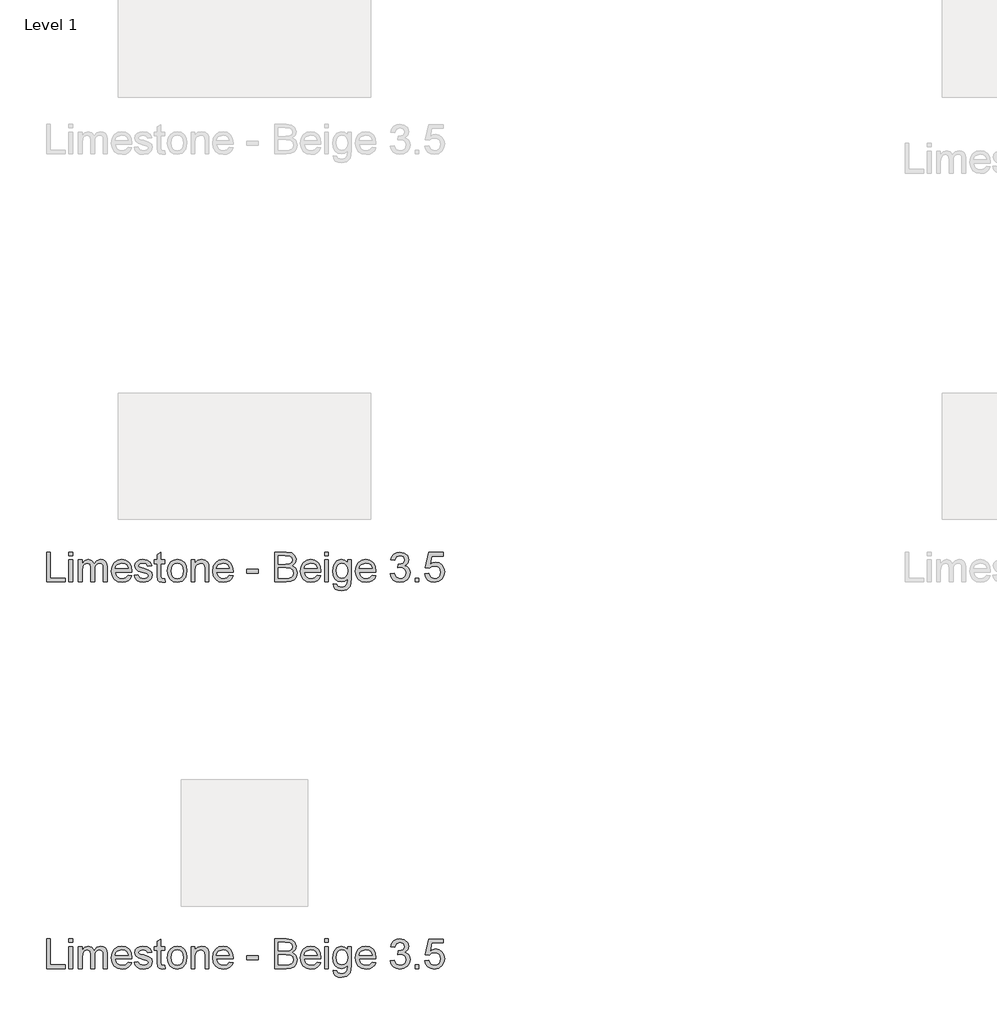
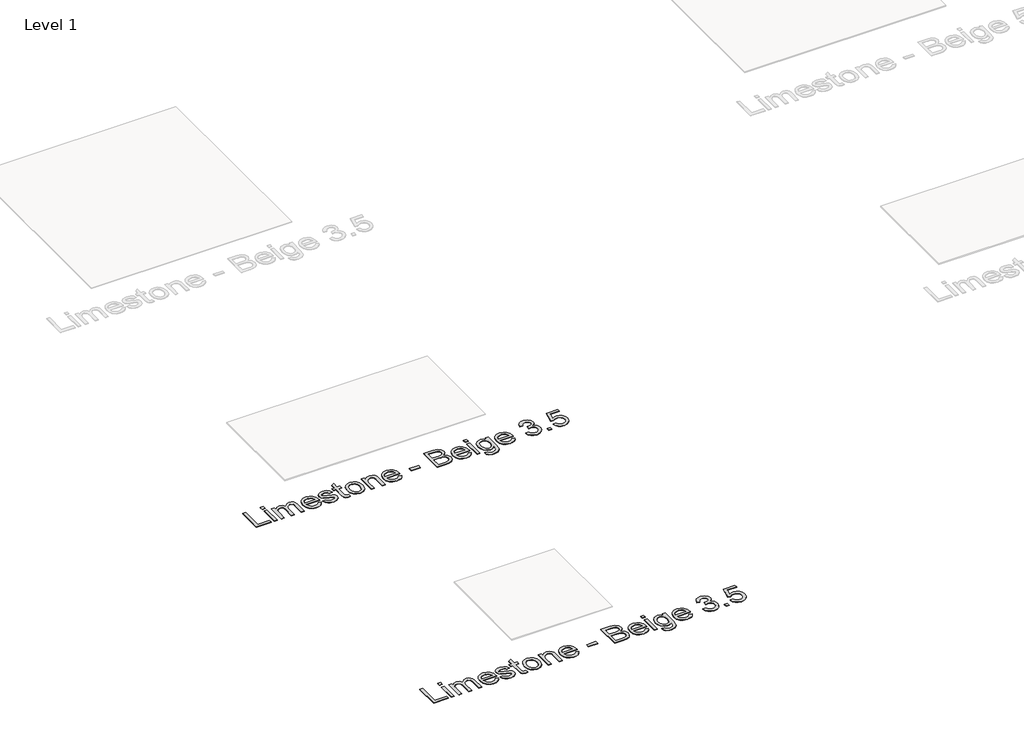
# One storey, part 66 of 80: 2 proxies.
"""IFC4 building model written with IfcOpenShell, lengths in millimetres."""

from ifc_helpers import new_model, si_unit, origin, origin_with_axes, place, context, project, spatial, polyline, outline, extrude, element, save

model = new_model("IFC4")

# Units and contexts
model_context = context("Model", 3, world=origin())
ifc_project = project(units=[si_unit("LENGTHUNIT", "METRE", prefix="MILLI")], contexts=[model_context])

# Site, building, storey
site = spatial("IfcSite", under=ifc_project)
building = spatial("IfcBuilding", under=site)
storey = spatial("IfcBuildingStorey", under=building, Name="Level 1", Elevation=0.0)

# Proxies
placement = place(None, origin())
element("IfcBuildingElementProxy", 1, Name="24\" Arial", ObjectType="24\" Arial", at=placement, inside=storey, context=model_context, shape_type="SweptSolid", body=[
    extrude(outline(polyline([(12550.7700459, 7106.868207), (12550.7700459, 7225.0220532), (12565.5392767, 7225.0220532), (12565.5392767, 7121.6374378), (12624.6161998, 7121.6374378), (12624.6161998, 7106.868207), (12550.7700459, 7106.868207)])), origin_with_axes(), (0.0, 0.0, 1.0), 2.0),
    extrude(outline(polyline([(12639.3854306, 7210.2528224), (12639.3854306, 7225.0220532), (12654.1546613, 7225.0220532), (12654.1546613, 7210.2528224), (12639.3854306, 7210.2528224)])), origin_with_axes(), (0.0, 0.0, 1.0), 2.0),
    extrude(outline(polyline([(12639.3854306, 7106.868207), (12639.3854306, 7193.6374378), (12654.1546613, 7193.6374378), (12654.1546613, 7106.868207), (12639.3854306, 7106.868207)])), origin_with_axes(), (0.0, 0.0, 1.0), 2.0),
    extrude(outline(polyline([(12676.3085075, 7106.868207), (12676.3085075, 7193.6374378), (12691.0777383, 7193.6374378), (12691.0777383, 7179.3585916), (12701.2315844, 7191.055707), (12715.6835075, 7195.4835916), (12730.4815844, 7190.9691686), (12738.6161998, 7178.3201301), (12750.1402383, 7191.1927263), (12764.6931229, 7195.4835916), (12775.7952863, 7193.6987359), (12784.0056229, 7188.3441686), (12789.0789402, 7179.275659), (12790.7700459, 7166.3489763), (12790.7700459, 7106.868207), (12776.0008152, 7106.868207), (12776.0008152, 7160.0028224), (12774.6306229, 7172.3345532), (12769.6690844, 7178.4066686), (12761.2315844, 7180.7143609), (12753.2303825, 7179.2359955), (12746.7075459, 7174.8008993), (12742.3698056, 7167.1061878), (12740.9238921, 7155.8489763), (12740.9238921, 7106.868207), (12726.1546613, 7106.868207), (12726.1546613, 7161.6470532), (12722.7363921, 7175.9547455), (12711.5296613, 7180.7143609), (12700.596969, 7177.541284), (12693.3277383, 7168.2528224), (12691.0777383, 7150.6278224), (12691.0777383, 7106.868207), (12676.3085075, 7106.868207)])), origin_with_axes(), (0.0, 0.0, 1.0), 2.0),
    extrude(outline(polyline([(12873.6738921, 7132.7143609), (12888.1546613, 7130.868207), (12882.9371133, 7119.9571493), (12874.6113921, 7111.8008993), (12863.3649979, 7106.7167647), (12849.3854306, 7105.0220532), (12832.0561036, 7107.946332), (12818.721969, 7116.7191686), (12810.2195652, 7130.7708513), (12807.3854306, 7149.5316686), (12810.2484113, 7168.9234955), (12818.8373536, 7183.4258993), (12831.9911998, 7192.4691686), (12848.5488921, 7195.4835916), (12864.5909594, 7192.4763801), (12877.409469, 7183.4547455), (12885.8145171, 7168.9811878), (12888.6161998, 7149.618207), (12888.5296613, 7145.6374378), (12822.1546613, 7145.6374378), (12824.7111517, 7134.5821493), (12830.6498536, 7126.4547455), (12839.2207671, 7121.4571493), (12849.6738921, 7119.791284), (12864.1546613, 7122.8778224), (12873.6738921, 7132.7143609)]), holes=[polyline([(12822.1546613, 7160.4066686), (12873.846969, 7160.4066686), (12867.9335075, 7173.791284), (12859.3229306, 7178.9835916), (12848.4911998, 7180.7143609), (12830.3036998, 7175.1903224), (12824.581344, 7168.7323897), (12822.1546613, 7160.4066686)])]), origin_with_axes(), (0.0, 0.0, 1.0), 2.0),
    extrude(outline(polyline([(12897.846969, 7132.7143609), (12912.6161998, 7134.5605147), (12919.4527383, 7123.5989763), (12935.1161998, 7119.791284), (12950.1738921, 7123.2816686), (12955.0777383, 7131.4739763), (12950.1450459, 7138.1085916), (12934.9431229, 7142.3201301), (12912.7027383, 7149.5460916), (12902.9960075, 7157.9835916), (12899.6931229, 7169.8970532), (12902.346969, 7180.9018609), (12909.5873536, 7189.3105147), (12918.9767767, 7193.680707), (12931.6835075, 7195.4835916), (12949.6546613, 7192.5845532), (12961.0777383, 7184.7383993), (12966.1546613, 7171.4835916), (12951.3854306, 7169.6374378), (12945.8325459, 7177.7864763), (12932.8373536, 7180.7143609), (12918.7027383, 7177.916284), (12914.4623536, 7171.3970532), (12916.221969, 7167.0989763), (12921.7315844, 7163.8393609), (12934.4527383, 7160.6951301), (12956.1306229, 7153.743207), (12966.1979306, 7145.868207), (12969.846969, 7133.0316686), (12965.5633152, 7118.8970532), (12953.2027383, 7108.6422455), (12934.9142767, 7105.0220532), (12920.0224498, 7106.7672455), (12909.1546613, 7112.0028224), (12901.8998536, 7120.6710916), (12897.846969, 7132.7143609)])), origin_with_axes(), (0.0, 0.0, 1.0), 2.0),
    extrude(outline(polyline([(13017.846969, 7119.1855147), (13019.6931229, 7106.4355147), (13008.6450459, 7105.0220532), (12996.2700459, 7107.4739763), (12990.096969, 7113.9066686), (12988.3085075, 7130.666284), (12988.3085075, 7178.868207), (12977.2315844, 7178.868207), (12977.2315844, 7193.6374378), (12988.3085075, 7193.6374378), (12988.3085075, 7214.7239763), (13003.0777383, 7223.4066686), (13003.0777383, 7193.6374378), (13017.846969, 7193.6374378), (13017.846969, 7178.868207), (13003.0777383, 7178.868207), (13003.0777383, 7131.0989763), (13003.8565844, 7123.4835916), (13006.3806229, 7120.7864763), (13011.4142767, 7119.791284), (13017.846969, 7119.1855147)])), origin_with_axes(), (0.0, 0.0, 1.0), 2.0),
    extrude(outline(polyline([(13028.9238921, 7150.2528224), (13032.1186036, 7171.1734955), (13041.7027383, 7185.8778224), (13053.5440844, 7193.0821493), (13067.721969, 7195.4835916), (13083.237594, 7192.5593128), (13095.6306229, 7183.7864763), (13103.7544209, 7169.8573897), (13106.4623536, 7151.4643609), (13101.6738921, 7125.1855147), (13087.7267767, 7110.3153224), (13067.721969, 7105.0220532), (13052.018844, 7107.9355147), (13039.6402383, 7116.6758993), (13031.6029786, 7130.8970532), (13028.9238921, 7150.2528224)]), holes=[polyline([(13043.6931229, 7150.2816686), (13045.4022575, 7136.915082), (13050.5296613, 7127.3922455), (13058.2460075, 7121.6915243), (13067.721969, 7119.791284), (13077.1546613, 7121.7023416), (13084.8565844, 7127.4355147), (13089.9839883, 7137.0845532), (13091.6931229, 7150.743207), (13089.9731709, 7163.7203705), (13084.8133152, 7173.1133993), (13077.1005748, 7178.8141205), (13067.721969, 7180.7143609), (13058.2460075, 7178.821332), (13050.5296613, 7173.1422455), (13045.4022575, 7163.6410436), (13043.6931229, 7150.2816686)])]), origin_with_axes(), (0.0, 0.0, 1.0), 2.0),
    extrude(outline(polyline([(13123.0777383, 7106.868207), (13123.0777383, 7193.6374378), (13137.846969, 7193.6374378), (13137.846969, 7181.5220532), (13149.1402383, 7191.993207), (13164.5585075, 7195.4835916), (13178.5056229, 7192.6710916), (13188.0248536, 7185.2864763), (13192.4527383, 7174.4258993), (13193.2315844, 7160.1470532), (13193.2315844, 7106.868207), (13178.4623536, 7106.868207), (13178.4623536, 7158.1566686), (13176.7604306, 7171.2239763), (13170.7460075, 7178.1326301), (13160.6065844, 7180.7143609), (13144.5825459, 7174.916284), (13139.5308633, 7166.5148416), (13137.846969, 7152.9066686), (13137.846969, 7106.868207), (13123.0777383, 7106.868207)])), origin_with_axes(), (0.0, 0.0, 1.0), 2.0),
    extrude(outline(polyline([(13274.2892767, 7132.7143609), (13288.7700459, 7130.868207), (13283.5524979, 7119.9571493), (13275.2267767, 7111.8008993), (13263.9803825, 7106.7167647), (13250.0008152, 7105.0220532), (13232.6714883, 7107.946332), (13219.3373536, 7116.7191686), (13210.8349498, 7130.7708513), (13208.0008152, 7149.5316686), (13210.8637959, 7168.9234955), (13219.4527383, 7183.4258993), (13232.6065844, 7192.4691686), (13249.1642767, 7195.4835916), (13265.206344, 7192.4763801), (13278.0248536, 7183.4547455), (13286.4299017, 7168.9811878), (13289.2315844, 7149.618207), (13289.1450459, 7145.6374378), (13222.7700459, 7145.6374378), (13225.3265363, 7134.5821493), (13231.2652383, 7126.4547455), (13239.8361517, 7121.4571493), (13250.2892767, 7119.791284), (13264.7700459, 7122.8778224), (13274.2892767, 7132.7143609)]), holes=[polyline([(13222.7700459, 7160.4066686), (13274.4623536, 7160.4066686), (13268.5488921, 7173.791284), (13259.9383152, 7178.9835916), (13249.1065844, 7180.7143609), (13230.9190844, 7175.1903224), (13225.1967286, 7168.7323897), (13222.7700459, 7160.4066686)])]), origin_with_axes(), (0.0, 0.0, 1.0), 2.0),
    extrude(outline(polyline([(13342.7700459, 7141.9451301), (13342.7700459, 7156.7143609), (13388.9238921, 7156.7143609), (13388.9238921, 7141.9451301), (13342.7700459, 7141.9451301)])), origin_with_axes(), (0.0, 0.0, 1.0), 2.0),
    extrude(outline(polyline([(13453.5392767, 7106.868207), (13453.5392767, 7225.0220532), (13498.6258152, 7225.0220532), (13520.7075459, 7221.5460916), (13533.7460075, 7210.8585916), (13538.4623536, 7195.743207), (13534.4960075, 7181.9403224), (13522.5104306, 7171.4835916), (13537.0633152, 7160.4643609), (13542.1546613, 7142.0893609), (13538.6786998, 7126.2095532), (13530.0681229, 7114.9018609), (13517.2171613, 7108.9018609), (13498.2796613, 7106.868207), (13453.5392767, 7106.868207)]), holes=[polyline([(13468.3085075, 7121.6374378), (13498.596969, 7121.6374378), (13509.5585075, 7122.2143609), (13518.8325459, 7125.430707), (13524.9767767, 7131.993207), (13527.3854306, 7141.9451301), (13524.5585075, 7153.4258993), (13515.3998536, 7160.2768609), (13497.1546613, 7162.2528224), (13468.3085075, 7162.2528224), (13468.3085075, 7121.6374378)]), polyline([(13468.3085075, 7177.0220532), (13495.2796613, 7177.0220532), (13511.0296613, 7178.291284), (13520.5056229, 7183.7576301), (13523.6931229, 7193.3778224), (13520.721969, 7203.0124378), (13512.2123536, 7208.7095532), (13493.2315844, 7210.2528224), (13468.3085075, 7210.2528224), (13468.3085075, 7177.0220532)])]), origin_with_axes(), (0.0, 0.0, 1.0), 2.0),
    extrude(outline(polyline([(13621.3661998, 7132.7143609), (13635.846969, 7130.868207), (13630.6294209, 7119.9571493), (13622.3036998, 7111.8008993), (13611.0573056, 7106.7167647), (13597.0777383, 7105.0220532), (13579.7484113, 7107.946332), (13566.4142767, 7116.7191686), (13557.9118729, 7130.7708513), (13555.0777383, 7149.5316686), (13557.940719, 7168.9234955), (13566.5296613, 7183.4258993), (13579.6835075, 7192.4691686), (13596.2411998, 7195.4835916), (13612.2832671, 7192.4763801), (13625.1017767, 7183.4547455), (13633.5068248, 7168.9811878), (13636.3085075, 7149.618207), (13636.221969, 7145.6374378), (13569.846969, 7145.6374378), (13572.4034594, 7134.5821493), (13578.3421613, 7126.4547455), (13586.9130748, 7121.4571493), (13597.3661998, 7119.791284), (13611.846969, 7122.8778224), (13621.3661998, 7132.7143609)]), holes=[polyline([(13569.846969, 7160.4066686), (13621.5392767, 7160.4066686), (13615.6258152, 7173.791284), (13607.0152383, 7178.9835916), (13596.1835075, 7180.7143609), (13577.9960075, 7175.1903224), (13572.2736517, 7168.7323897), (13569.846969, 7160.4066686)])]), origin_with_axes(), (0.0, 0.0, 1.0), 2.0),
    extrude(outline(polyline([(13651.0777383, 7106.868207), (13651.0777383, 7193.6374378), (13665.846969, 7193.6374378), (13665.846969, 7106.868207), (13651.0777383, 7106.868207)])), origin_with_axes(), (0.0, 0.0, 1.0), 2.0),
    extrude(outline(polyline([(13651.0777383, 7210.2528224), (13651.0777383, 7225.0220532), (13665.846969, 7225.0220532), (13665.846969, 7210.2528224), (13651.0777383, 7210.2528224)])), origin_with_axes(), (0.0, 0.0, 1.0), 2.0),
    extrude(outline(polyline([(13684.3085075, 7099.4835916), (13699.0777383, 7097.6374378), (13703.8661998, 7089.8489763), (13718.2027383, 7086.5605147), (13733.3181229, 7090.2816686), (13740.5296613, 7100.7239763), (13741.5392767, 7117.9451301), (13731.1402383, 7109.6374378), (13718.4623536, 7106.868207), (13703.2351902, 7110.0917647), (13691.8806229, 7119.7624378), (13684.8169209, 7133.9403224), (13682.4623536, 7150.6855147), (13686.6883152, 7173.5749378), (13698.9190844, 7189.7720532), (13717.7411998, 7195.4835916), (13730.9166806, 7192.2528224), (13741.5392767, 7182.5605147), (13741.5392767, 7193.6374378), (13756.3085075, 7193.6374378), (13756.3085075, 7118.7239763), (13752.2700459, 7090.0364763), (13739.4767767, 7076.6951301), (13717.9142767, 7071.791284), (13704.1726902, 7073.5184474), (13693.3517767, 7078.6999378), (13686.4106709, 7087.3501782), (13684.3085075, 7099.4835916)]), holes=[polyline([(13697.2315844, 7151.6951301), (13698.8073056, 7138.1482551), (13703.534469, 7128.8345532), (13710.6414402, 7123.4367166), (13719.3565844, 7121.6374378), (13728.0068248, 7123.4258993), (13735.1498536, 7128.791284), (13739.9419209, 7137.9859955), (13741.5392767, 7151.2624378), (13739.8950459, 7164.0665243), (13734.9623536, 7173.2864763), (13727.7147575, 7178.8573897), (13719.1258152, 7180.7143609), (13710.6919209, 7178.8862359), (13703.6210075, 7173.4018609), (13698.8289402, 7164.3189282), (13697.2315844, 7151.6951301)])]), origin_with_axes(), (0.0, 0.0, 1.0), 2.0),
    extrude(outline(polyline([(13839.2123536, 7132.7143609), (13853.6931229, 7130.868207), (13848.4755748, 7119.9571493), (13840.1498536, 7111.8008993), (13828.9034594, 7106.7167647), (13814.9238921, 7105.0220532), (13797.5945652, 7107.946332), (13784.2604306, 7116.7191686), (13775.7580267, 7130.7708513), (13772.9238921, 7149.5316686), (13775.7868729, 7168.9234955), (13784.3758152, 7183.4258993), (13797.5296613, 7192.4691686), (13814.0873536, 7195.4835916), (13830.1294209, 7192.4763801), (13842.9479306, 7183.4547455), (13851.3529786, 7168.9811878), (13854.1546613, 7149.618207), (13854.0681229, 7145.6374378), (13787.6931229, 7145.6374378), (13790.2496133, 7134.5821493), (13796.1883152, 7126.4547455), (13804.7592286, 7121.4571493), (13815.2123536, 7119.791284), (13829.6931229, 7122.8778224), (13839.2123536, 7132.7143609)]), holes=[polyline([(13787.6931229, 7160.4066686), (13839.3854306, 7160.4066686), (13833.471969, 7173.791284), (13824.8613921, 7178.9835916), (13814.0296613, 7180.7143609), (13795.8421613, 7175.1903224), (13790.1198056, 7168.7323897), (13787.6931229, 7160.4066686)])]), origin_with_axes(), (0.0, 0.0, 1.0), 2.0),
    extrude(outline(polyline([(13911.3854306, 7138.2528224), (13926.1546613, 7140.0989763), (13934.3036998, 7124.5508993), (13949.5488921, 7119.791284), (13959.6738921, 7121.4283032), (13967.4911998, 7126.3393609), (13972.4887959, 7133.666284), (13974.1546613, 7142.5508993), (13972.503219, 7150.9847936), (13967.5488921, 7157.8249378), (13960.0488921, 7162.3573897), (13950.7604306, 7163.868207), (13940.4046613, 7162.2528224), (13942.0488921, 7177.0220532), (13944.4142767, 7176.8489763), (13961.1738921, 7181.0893609), (13966.7556229, 7186.4691686), (13968.6161998, 7194.1278224), (13963.221969, 7205.680707), (13949.3181229, 7210.2528224), (13935.2411998, 7205.6374378), (13928.0008152, 7191.791284), (13913.2315844, 7193.6374378), (13917.5801421, 7206.899457), (13925.3181229, 7216.8008993), (13935.9046613, 7222.9667647), (13948.7988921, 7225.0220532), (13966.6113921, 7220.9691686), (13979.0729306, 7209.8922455), (13983.3854306, 7194.993207), (13979.2892767, 7181.3778224), (13967.1738921, 7171.5989763), (13976.4190844, 7167.8633993), (13983.2700459, 7161.5028224), (13987.5104306, 7152.8633993), (13988.9238921, 7142.291284), (13986.096969, 7127.8970532), (13977.6161998, 7115.868207), (13964.815719, 7107.7335916), (13949.0296613, 7105.0220532), (13934.7508152, 7107.336957), (13923.1258152, 7114.2816686), (13915.0416806, 7124.9042647), (13911.3854306, 7138.2528224)])), origin_with_axes(), (0.0, 0.0, 1.0), 2.0),
    extrude(outline(polyline([(14009.2315844, 7106.868207), (14009.2315844, 7121.6374378), (14024.0008152, 7121.6374378), (14024.0008152, 7106.868207), (14009.2315844, 7106.868207)])), origin_with_axes(), (0.0, 0.0, 1.0), 2.0),
    extrude(outline(polyline([(14048.0008152, 7138.2528224), (14062.7700459, 7140.0989763), (14070.2123536, 7124.8826301), (14085.6450459, 7119.791284), (14096.2315844, 7121.5617166), (14104.1642767, 7126.8730147), (14109.1186036, 7135.1121974), (14110.7700459, 7145.666284), (14109.2231709, 7155.603784), (14104.5825459, 7163.2047455), (14096.8121133, 7168.0292647), (14085.8758152, 7169.6374378), (14072.909469, 7167.0701301), (14064.6161998, 7160.4066686), (14049.846969, 7162.2528224), (14062.7700459, 7223.1758993), (14120.0008152, 7223.1758993), (14120.0008152, 7208.4066686), (14074.7123536, 7208.4066686), (14068.3950459, 7175.868207), (14078.9455267, 7182.2720532), (14090.0008152, 7184.4066686), (14103.800094, 7181.760034), (14115.2556229, 7173.8201301), (14122.9683633, 7161.7191686), (14125.5392767, 7146.5893609), (14123.2243729, 7131.8201301), (14116.2796613, 7119.1855147), (14102.9815844, 7108.5629186), (14085.5873536, 7105.0220532), (14071.081344, 7107.2972936), (14059.5248536, 7114.1230147), (14051.6029786, 7124.7059474), (14048.0008152, 7138.2528224)])), origin_with_axes(), (0.0, 0.0, 1.0), 2.0),
])
element("IfcBuildingElementProxy", 2, Name="24\" Arial", ObjectType="24\" Arial", at=placement, inside=storey, context=model_context, shape_type="SweptSolid", body=[
    extrude(outline(polyline([(12550.7700459, 5576.868207), (12550.7700459, 5695.0220532), (12565.5392767, 5695.0220532), (12565.5392767, 5591.6374378), (12624.6161998, 5591.6374378), (12624.6161998, 5576.868207), (12550.7700459, 5576.868207)])), origin_with_axes(), (0.0, 0.0, 1.0), 2.0),
    extrude(outline(polyline([(12639.3854306, 5680.2528224), (12639.3854306, 5695.0220532), (12654.1546613, 5695.0220532), (12654.1546613, 5680.2528224), (12639.3854306, 5680.2528224)])), origin_with_axes(), (0.0, 0.0, 1.0), 2.0),
    extrude(outline(polyline([(12639.3854306, 5576.868207), (12639.3854306, 5663.6374378), (12654.1546613, 5663.6374378), (12654.1546613, 5576.868207), (12639.3854306, 5576.868207)])), origin_with_axes(), (0.0, 0.0, 1.0), 2.0),
    extrude(outline(polyline([(12676.3085075, 5576.868207), (12676.3085075, 5663.6374378), (12691.0777383, 5663.6374378), (12691.0777383, 5649.3585916), (12701.2315844, 5661.055707), (12715.6835075, 5665.4835916), (12730.4815844, 5660.9691686), (12738.6161998, 5648.3201301), (12750.1402383, 5661.1927263), (12764.6931229, 5665.4835916), (12775.7952863, 5663.6987359), (12784.0056229, 5658.3441686), (12789.0789402, 5649.275659), (12790.7700459, 5636.3489763), (12790.7700459, 5576.868207), (12776.0008152, 5576.868207), (12776.0008152, 5630.0028224), (12774.6306229, 5642.3345532), (12769.6690844, 5648.4066686), (12761.2315844, 5650.7143609), (12753.2303825, 5649.2359955), (12746.7075459, 5644.8008993), (12742.3698056, 5637.1061878), (12740.9238921, 5625.8489763), (12740.9238921, 5576.868207), (12726.1546613, 5576.868207), (12726.1546613, 5631.6470532), (12722.7363921, 5645.9547455), (12711.5296613, 5650.7143609), (12700.596969, 5647.541284), (12693.3277383, 5638.2528224), (12691.0777383, 5620.6278224), (12691.0777383, 5576.868207), (12676.3085075, 5576.868207)])), origin_with_axes(), (0.0, 0.0, 1.0), 2.0),
    extrude(outline(polyline([(12873.6738921, 5602.7143609), (12888.1546613, 5600.868207), (12882.9371133, 5589.9571493), (12874.6113921, 5581.8008993), (12863.3649979, 5576.7167647), (12849.3854306, 5575.0220532), (12832.0561036, 5577.946332), (12818.721969, 5586.7191686), (12810.2195652, 5600.7708513), (12807.3854306, 5619.5316686), (12810.2484113, 5638.9234955), (12818.8373536, 5653.4258993), (12831.9911998, 5662.4691686), (12848.5488921, 5665.4835916), (12864.5909594, 5662.4763801), (12877.409469, 5653.4547455), (12885.8145171, 5638.9811878), (12888.6161998, 5619.618207), (12888.5296613, 5615.6374378), (12822.1546613, 5615.6374378), (12824.7111517, 5604.5821493), (12830.6498536, 5596.4547455), (12839.2207671, 5591.4571493), (12849.6738921, 5589.791284), (12864.1546613, 5592.8778224), (12873.6738921, 5602.7143609)]), holes=[polyline([(12822.1546613, 5630.4066686), (12873.846969, 5630.4066686), (12867.9335075, 5643.791284), (12859.3229306, 5648.9835916), (12848.4911998, 5650.7143609), (12830.3036998, 5645.1903224), (12824.581344, 5638.7323897), (12822.1546613, 5630.4066686)])]), origin_with_axes(), (0.0, 0.0, 1.0), 2.0),
    extrude(outline(polyline([(12897.846969, 5602.7143609), (12912.6161998, 5604.5605147), (12919.4527383, 5593.5989763), (12935.1161998, 5589.791284), (12950.1738921, 5593.2816686), (12955.0777383, 5601.4739763), (12950.1450459, 5608.1085916), (12934.9431229, 5612.3201301), (12912.7027383, 5619.5460916), (12902.9960075, 5627.9835916), (12899.6931229, 5639.8970532), (12902.346969, 5650.9018609), (12909.5873536, 5659.3105147), (12918.9767767, 5663.680707), (12931.6835075, 5665.4835916), (12949.6546613, 5662.5845532), (12961.0777383, 5654.7383993), (12966.1546613, 5641.4835916), (12951.3854306, 5639.6374378), (12945.8325459, 5647.7864763), (12932.8373536, 5650.7143609), (12918.7027383, 5647.916284), (12914.4623536, 5641.3970532), (12916.221969, 5637.0989763), (12921.7315844, 5633.8393609), (12934.4527383, 5630.6951301), (12956.1306229, 5623.743207), (12966.1979306, 5615.868207), (12969.846969, 5603.0316686), (12965.5633152, 5588.8970532), (12953.2027383, 5578.6422455), (12934.9142767, 5575.0220532), (12920.0224498, 5576.7672455), (12909.1546613, 5582.0028224), (12901.8998536, 5590.6710916), (12897.846969, 5602.7143609)])), origin_with_axes(), (0.0, 0.0, 1.0), 2.0),
    extrude(outline(polyline([(13017.846969, 5589.1855147), (13019.6931229, 5576.4355147), (13008.6450459, 5575.0220532), (12996.2700459, 5577.4739763), (12990.096969, 5583.9066686), (12988.3085075, 5600.666284), (12988.3085075, 5648.868207), (12977.2315844, 5648.868207), (12977.2315844, 5663.6374378), (12988.3085075, 5663.6374378), (12988.3085075, 5684.7239763), (13003.0777383, 5693.4066686), (13003.0777383, 5663.6374378), (13017.846969, 5663.6374378), (13017.846969, 5648.868207), (13003.0777383, 5648.868207), (13003.0777383, 5601.0989763), (13003.8565844, 5593.4835916), (13006.3806229, 5590.7864763), (13011.4142767, 5589.791284), (13017.846969, 5589.1855147)])), origin_with_axes(), (0.0, 0.0, 1.0), 2.0),
    extrude(outline(polyline([(13028.9238921, 5620.2528224), (13032.1186036, 5641.1734955), (13041.7027383, 5655.8778224), (13053.5440844, 5663.0821493), (13067.721969, 5665.4835916), (13083.237594, 5662.5593128), (13095.6306229, 5653.7864763), (13103.7544209, 5639.8573897), (13106.4623536, 5621.4643609), (13101.6738921, 5595.1855147), (13087.7267767, 5580.3153224), (13067.721969, 5575.0220532), (13052.018844, 5577.9355147), (13039.6402383, 5586.6758993), (13031.6029786, 5600.8970532), (13028.9238921, 5620.2528224)]), holes=[polyline([(13043.6931229, 5620.2816686), (13045.4022575, 5606.915082), (13050.5296613, 5597.3922455), (13058.2460075, 5591.6915243), (13067.721969, 5589.791284), (13077.1546613, 5591.7023416), (13084.8565844, 5597.4355147), (13089.9839883, 5607.0845532), (13091.6931229, 5620.743207), (13089.9731709, 5633.7203705), (13084.8133152, 5643.1133993), (13077.1005748, 5648.8141205), (13067.721969, 5650.7143609), (13058.2460075, 5648.821332), (13050.5296613, 5643.1422455), (13045.4022575, 5633.6410436), (13043.6931229, 5620.2816686)])]), origin_with_axes(), (0.0, 0.0, 1.0), 2.0),
    extrude(outline(polyline([(13123.0777383, 5576.868207), (13123.0777383, 5663.6374378), (13137.846969, 5663.6374378), (13137.846969, 5651.5220532), (13149.1402383, 5661.993207), (13164.5585075, 5665.4835916), (13178.5056229, 5662.6710916), (13188.0248536, 5655.2864763), (13192.4527383, 5644.4258993), (13193.2315844, 5630.1470532), (13193.2315844, 5576.868207), (13178.4623536, 5576.868207), (13178.4623536, 5628.1566686), (13176.7604306, 5641.2239763), (13170.7460075, 5648.1326301), (13160.6065844, 5650.7143609), (13144.5825459, 5644.916284), (13139.5308633, 5636.5148416), (13137.846969, 5622.9066686), (13137.846969, 5576.868207), (13123.0777383, 5576.868207)])), origin_with_axes(), (0.0, 0.0, 1.0), 2.0),
    extrude(outline(polyline([(13274.2892767, 5602.7143609), (13288.7700459, 5600.868207), (13283.5524979, 5589.9571493), (13275.2267767, 5581.8008993), (13263.9803825, 5576.7167647), (13250.0008152, 5575.0220532), (13232.6714883, 5577.946332), (13219.3373536, 5586.7191686), (13210.8349498, 5600.7708513), (13208.0008152, 5619.5316686), (13210.8637959, 5638.9234955), (13219.4527383, 5653.4258993), (13232.6065844, 5662.4691686), (13249.1642767, 5665.4835916), (13265.206344, 5662.4763801), (13278.0248536, 5653.4547455), (13286.4299017, 5638.9811878), (13289.2315844, 5619.618207), (13289.1450459, 5615.6374378), (13222.7700459, 5615.6374378), (13225.3265363, 5604.5821493), (13231.2652383, 5596.4547455), (13239.8361517, 5591.4571493), (13250.2892767, 5589.791284), (13264.7700459, 5592.8778224), (13274.2892767, 5602.7143609)]), holes=[polyline([(13222.7700459, 5630.4066686), (13274.4623536, 5630.4066686), (13268.5488921, 5643.791284), (13259.9383152, 5648.9835916), (13249.1065844, 5650.7143609), (13230.9190844, 5645.1903224), (13225.1967286, 5638.7323897), (13222.7700459, 5630.4066686)])]), origin_with_axes(), (0.0, 0.0, 1.0), 2.0),
    extrude(outline(polyline([(13342.7700459, 5611.9451301), (13342.7700459, 5626.7143609), (13388.9238921, 5626.7143609), (13388.9238921, 5611.9451301), (13342.7700459, 5611.9451301)])), origin_with_axes(), (0.0, 0.0, 1.0), 2.0),
    extrude(outline(polyline([(13453.5392767, 5576.868207), (13453.5392767, 5695.0220532), (13498.6258152, 5695.0220532), (13520.7075459, 5691.5460916), (13533.7460075, 5680.8585916), (13538.4623536, 5665.743207), (13534.4960075, 5651.9403224), (13522.5104306, 5641.4835916), (13537.0633152, 5630.4643609), (13542.1546613, 5612.0893609), (13538.6786998, 5596.2095532), (13530.0681229, 5584.9018609), (13517.2171613, 5578.9018609), (13498.2796613, 5576.868207), (13453.5392767, 5576.868207)]), holes=[polyline([(13468.3085075, 5591.6374378), (13498.596969, 5591.6374378), (13509.5585075, 5592.2143609), (13518.8325459, 5595.430707), (13524.9767767, 5601.993207), (13527.3854306, 5611.9451301), (13524.5585075, 5623.4258993), (13515.3998536, 5630.2768609), (13497.1546613, 5632.2528224), (13468.3085075, 5632.2528224), (13468.3085075, 5591.6374378)]), polyline([(13468.3085075, 5647.0220532), (13495.2796613, 5647.0220532), (13511.0296613, 5648.291284), (13520.5056229, 5653.7576301), (13523.6931229, 5663.3778224), (13520.721969, 5673.0124378), (13512.2123536, 5678.7095532), (13493.2315844, 5680.2528224), (13468.3085075, 5680.2528224), (13468.3085075, 5647.0220532)])]), origin_with_axes(), (0.0, 0.0, 1.0), 2.0),
    extrude(outline(polyline([(13621.3661998, 5602.7143609), (13635.846969, 5600.868207), (13630.6294209, 5589.9571493), (13622.3036998, 5581.8008993), (13611.0573056, 5576.7167647), (13597.0777383, 5575.0220532), (13579.7484113, 5577.946332), (13566.4142767, 5586.7191686), (13557.9118729, 5600.7708513), (13555.0777383, 5619.5316686), (13557.940719, 5638.9234955), (13566.5296613, 5653.4258993), (13579.6835075, 5662.4691686), (13596.2411998, 5665.4835916), (13612.2832671, 5662.4763801), (13625.1017767, 5653.4547455), (13633.5068248, 5638.9811878), (13636.3085075, 5619.618207), (13636.221969, 5615.6374378), (13569.846969, 5615.6374378), (13572.4034594, 5604.5821493), (13578.3421613, 5596.4547455), (13586.9130748, 5591.4571493), (13597.3661998, 5589.791284), (13611.846969, 5592.8778224), (13621.3661998, 5602.7143609)]), holes=[polyline([(13569.846969, 5630.4066686), (13621.5392767, 5630.4066686), (13615.6258152, 5643.791284), (13607.0152383, 5648.9835916), (13596.1835075, 5650.7143609), (13577.9960075, 5645.1903224), (13572.2736517, 5638.7323897), (13569.846969, 5630.4066686)])]), origin_with_axes(), (0.0, 0.0, 1.0), 2.0),
    extrude(outline(polyline([(13651.0777383, 5576.868207), (13651.0777383, 5663.6374378), (13665.846969, 5663.6374378), (13665.846969, 5576.868207), (13651.0777383, 5576.868207)])), origin_with_axes(), (0.0, 0.0, 1.0), 2.0),
    extrude(outline(polyline([(13651.0777383, 5680.2528224), (13651.0777383, 5695.0220532), (13665.846969, 5695.0220532), (13665.846969, 5680.2528224), (13651.0777383, 5680.2528224)])), origin_with_axes(), (0.0, 0.0, 1.0), 2.0),
    extrude(outline(polyline([(13684.3085075, 5569.4835916), (13699.0777383, 5567.6374378), (13703.8661998, 5559.8489763), (13718.2027383, 5556.5605147), (13733.3181229, 5560.2816686), (13740.5296613, 5570.7239763), (13741.5392767, 5587.9451301), (13731.1402383, 5579.6374378), (13718.4623536, 5576.868207), (13703.2351902, 5580.0917647), (13691.8806229, 5589.7624378), (13684.8169209, 5603.9403224), (13682.4623536, 5620.6855147), (13686.6883152, 5643.5749378), (13698.9190844, 5659.7720532), (13717.7411998, 5665.4835916), (13730.9166806, 5662.2528224), (13741.5392767, 5652.5605147), (13741.5392767, 5663.6374378), (13756.3085075, 5663.6374378), (13756.3085075, 5588.7239763), (13752.2700459, 5560.0364763), (13739.4767767, 5546.6951301), (13717.9142767, 5541.791284), (13704.1726902, 5543.5184474), (13693.3517767, 5548.6999378), (13686.4106709, 5557.3501782), (13684.3085075, 5569.4835916)]), holes=[polyline([(13697.2315844, 5621.6951301), (13698.8073056, 5608.1482551), (13703.534469, 5598.8345532), (13710.6414402, 5593.4367166), (13719.3565844, 5591.6374378), (13728.0068248, 5593.4258993), (13735.1498536, 5598.791284), (13739.9419209, 5607.9859955), (13741.5392767, 5621.2624378), (13739.8950459, 5634.0665243), (13734.9623536, 5643.2864763), (13727.7147575, 5648.8573897), (13719.1258152, 5650.7143609), (13710.6919209, 5648.8862359), (13703.6210075, 5643.4018609), (13698.8289402, 5634.3189282), (13697.2315844, 5621.6951301)])]), origin_with_axes(), (0.0, 0.0, 1.0), 2.0),
    extrude(outline(polyline([(13839.2123536, 5602.7143609), (13853.6931229, 5600.868207), (13848.4755748, 5589.9571493), (13840.1498536, 5581.8008993), (13828.9034594, 5576.7167647), (13814.9238921, 5575.0220532), (13797.5945652, 5577.946332), (13784.2604306, 5586.7191686), (13775.7580267, 5600.7708513), (13772.9238921, 5619.5316686), (13775.7868729, 5638.9234955), (13784.3758152, 5653.4258993), (13797.5296613, 5662.4691686), (13814.0873536, 5665.4835916), (13830.1294209, 5662.4763801), (13842.9479306, 5653.4547455), (13851.3529786, 5638.9811878), (13854.1546613, 5619.618207), (13854.0681229, 5615.6374378), (13787.6931229, 5615.6374378), (13790.2496133, 5604.5821493), (13796.1883152, 5596.4547455), (13804.7592286, 5591.4571493), (13815.2123536, 5589.791284), (13829.6931229, 5592.8778224), (13839.2123536, 5602.7143609)]), holes=[polyline([(13787.6931229, 5630.4066686), (13839.3854306, 5630.4066686), (13833.471969, 5643.791284), (13824.8613921, 5648.9835916), (13814.0296613, 5650.7143609), (13795.8421613, 5645.1903224), (13790.1198056, 5638.7323897), (13787.6931229, 5630.4066686)])]), origin_with_axes(), (0.0, 0.0, 1.0), 2.0),
    extrude(outline(polyline([(13911.3854306, 5608.2528224), (13926.1546613, 5610.0989763), (13934.3036998, 5594.5508993), (13949.5488921, 5589.791284), (13959.6738921, 5591.4283032), (13967.4911998, 5596.3393609), (13972.4887959, 5603.666284), (13974.1546613, 5612.5508993), (13972.503219, 5620.9847936), (13967.5488921, 5627.8249378), (13960.0488921, 5632.3573897), (13950.7604306, 5633.868207), (13940.4046613, 5632.2528224), (13942.0488921, 5647.0220532), (13944.4142767, 5646.8489763), (13961.1738921, 5651.0893609), (13966.7556229, 5656.4691686), (13968.6161998, 5664.1278224), (13963.221969, 5675.680707), (13949.3181229, 5680.2528224), (13935.2411998, 5675.6374378), (13928.0008152, 5661.791284), (13913.2315844, 5663.6374378), (13917.5801421, 5676.899457), (13925.3181229, 5686.8008993), (13935.9046613, 5692.9667647), (13948.7988921, 5695.0220532), (13966.6113921, 5690.9691686), (13979.0729306, 5679.8922455), (13983.3854306, 5664.993207), (13979.2892767, 5651.3778224), (13967.1738921, 5641.5989763), (13976.4190844, 5637.8633993), (13983.2700459, 5631.5028224), (13987.5104306, 5622.8633993), (13988.9238921, 5612.291284), (13986.096969, 5597.8970532), (13977.6161998, 5585.868207), (13964.815719, 5577.7335916), (13949.0296613, 5575.0220532), (13934.7508152, 5577.336957), (13923.1258152, 5584.2816686), (13915.0416806, 5594.9042647), (13911.3854306, 5608.2528224)])), origin_with_axes(), (0.0, 0.0, 1.0), 2.0),
    extrude(outline(polyline([(14009.2315844, 5576.868207), (14009.2315844, 5591.6374378), (14024.0008152, 5591.6374378), (14024.0008152, 5576.868207), (14009.2315844, 5576.868207)])), origin_with_axes(), (0.0, 0.0, 1.0), 2.0),
    extrude(outline(polyline([(14048.0008152, 5608.2528224), (14062.7700459, 5610.0989763), (14070.2123536, 5594.8826301), (14085.6450459, 5589.791284), (14096.2315844, 5591.5617166), (14104.1642767, 5596.8730147), (14109.1186036, 5605.1121974), (14110.7700459, 5615.666284), (14109.2231709, 5625.603784), (14104.5825459, 5633.2047455), (14096.8121133, 5638.0292647), (14085.8758152, 5639.6374378), (14072.909469, 5637.0701301), (14064.6161998, 5630.4066686), (14049.846969, 5632.2528224), (14062.7700459, 5693.1758993), (14120.0008152, 5693.1758993), (14120.0008152, 5678.4066686), (14074.7123536, 5678.4066686), (14068.3950459, 5645.868207), (14078.9455267, 5652.2720532), (14090.0008152, 5654.4066686), (14103.800094, 5651.760034), (14115.2556229, 5643.8201301), (14122.9683633, 5631.7191686), (14125.5392767, 5616.5893609), (14123.2243729, 5601.8201301), (14116.2796613, 5589.1855147), (14102.9815844, 5578.5629186), (14085.5873536, 5575.0220532), (14071.081344, 5577.2972936), (14059.5248536, 5584.1230147), (14051.6029786, 5594.7059474), (14048.0008152, 5608.2528224)])), origin_with_axes(), (0.0, 0.0, 1.0), 2.0),
])

save(model, "model.ifc")
